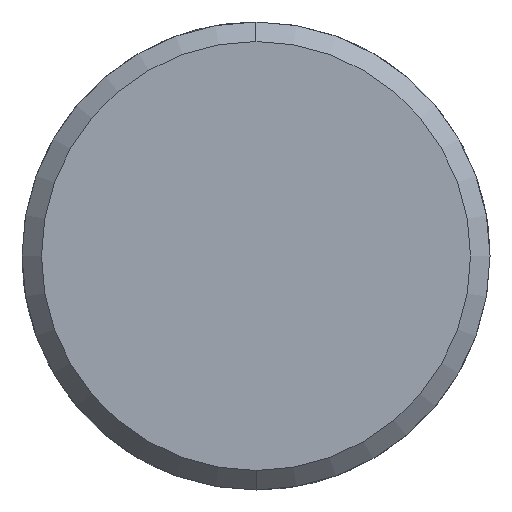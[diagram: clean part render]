
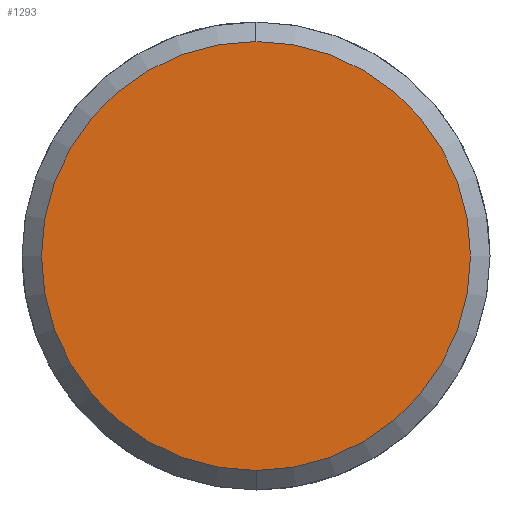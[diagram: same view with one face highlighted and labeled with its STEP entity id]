
A CAD part, left-side view. The second image highlights one B-rep face of the part: STEP entity #1293.
In plain terms, the highlighted planar face has unit normal (-1, 0, 0).
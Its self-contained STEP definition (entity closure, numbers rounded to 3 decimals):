
#1225=CARTESIAN_POINT('Vertex',(-5.,0.,-11.)) ;
#1228=CARTESIAN_POINT('Axis2P3D Location',(-5.,0.,0.)) ;
#1232=CARTESIAN_POINT('Vertex',(-5.,11.,0.)) ;
#1235=CARTESIAN_POINT('Axis2P3D Location',(-5.,0.,0.)) ;
#1239=CARTESIAN_POINT('Vertex',(-5.,0.,11.)) ;
#1261=CARTESIAN_POINT('Axis2P3D Location',(-5.,0.,0.)) ;
#1265=CARTESIAN_POINT('Vertex',(-5.,-11.,0.)) ;
#1268=CARTESIAN_POINT('Axis2P3D Location',(-5.,0.,0.)) ;
#1282=CARTESIAN_POINT('Axis2P3D Location',(-5.,0.,0.)) ;
#1229=DIRECTION('Axis2P3D Direction',(1.,0.,-0.)) ;
#1236=DIRECTION('Axis2P3D Direction',(1.,0.,-0.)) ;
#1262=DIRECTION('Axis2P3D Direction',(1.,0.,-0.)) ;
#1269=DIRECTION('Axis2P3D Direction',(1.,0.,-0.)) ;
#1283=DIRECTION('Axis2P3D Direction',(1.,0.,-0.)) ;
#1284=DIRECTION('Axis2P3D XDirection',(-0.,0.,-1.)) ;
#1230=AXIS2_PLACEMENT_3D('Circle Axis2P3D',#1228,#1229,$) ;
#1237=AXIS2_PLACEMENT_3D('Circle Axis2P3D',#1235,#1236,$) ;
#1263=AXIS2_PLACEMENT_3D('Circle Axis2P3D',#1261,#1262,$) ;
#1270=AXIS2_PLACEMENT_3D('Circle Axis2P3D',#1268,#1269,$) ;
#1285=AXIS2_PLACEMENT_3D('Plane Axis2P3D',#1282,#1283,#1284) ;
#1288=ORIENTED_EDGE('',*,*,#1234,.F.) ;
#1289=ORIENTED_EDGE('',*,*,#1272,.F.) ;
#1290=ORIENTED_EDGE('',*,*,#1267,.F.) ;
#1291=ORIENTED_EDGE('',*,*,#1241,.F.) ;
#1293=ADVANCED_FACE('351-14X26X120',(#1292),#1286,.F.) ;
#1231=CIRCLE('generated circle',#1230,11.) ;
#1238=CIRCLE('generated circle',#1237,11.) ;
#1264=CIRCLE('generated circle',#1263,11.) ;
#1271=CIRCLE('generated circle',#1270,11.) ;
#1234=EDGE_CURVE('',#1226,#1233,#1231,.T.) ;
#1241=EDGE_CURVE('',#1233,#1240,#1238,.T.) ;
#1267=EDGE_CURVE('',#1240,#1266,#1264,.T.) ;
#1272=EDGE_CURVE('',#1266,#1226,#1271,.T.) ;
#1287=EDGE_LOOP('',(#1288,#1289,#1290,#1291)) ;
#1292=FACE_OUTER_BOUND('',#1287,.T.) ;
#1286=PLANE('Plane',#1285) ;
#1226=VERTEX_POINT('',#1225) ;
#1233=VERTEX_POINT('',#1232) ;
#1240=VERTEX_POINT('',#1239) ;
#1266=VERTEX_POINT('',#1265) ;
